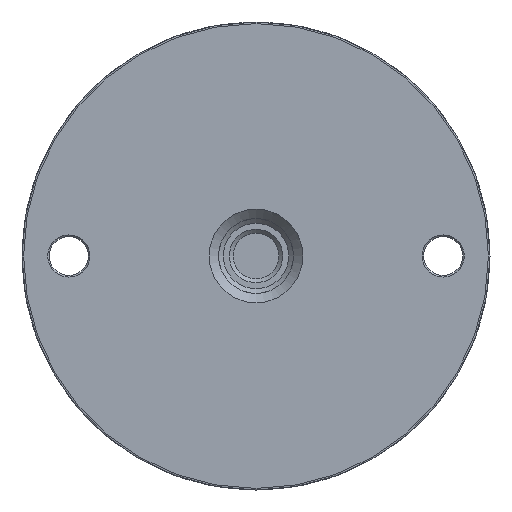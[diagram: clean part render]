
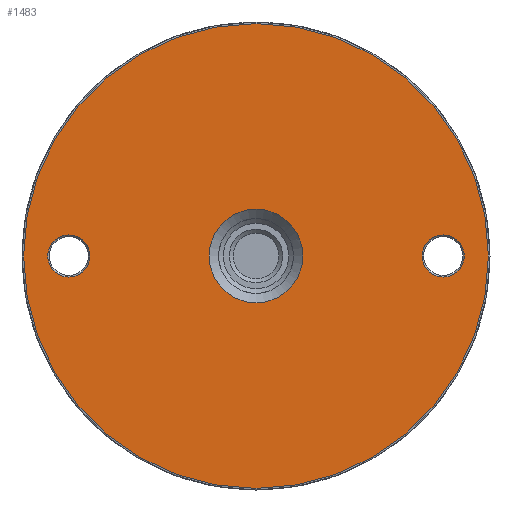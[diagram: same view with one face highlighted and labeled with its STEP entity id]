
A CAD part, left-side view. The second image highlights one B-rep face of the part: STEP entity #1483.
In plain terms, the highlighted planar face has unit normal (-1, 0, 0).
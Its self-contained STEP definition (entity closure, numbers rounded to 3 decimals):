
#216=CARTESIAN_POINT('',(-525.136,-503.109,0.0));
#217=VERTEX_POINT('',#216);
#218=CARTESIAN_POINT('',(-525.136,-473.109,0.0));
#219=VERTEX_POINT('',#218);
#220=CARTESIAN_POINT('',(-525.136,-488.109,0.0));
#221=DIRECTION('',(-1.0,0.0,0.0));
#222=DIRECTION('',(0.0,-1.0,0.0));
#223=AXIS2_PLACEMENT_3D('',#220,#221,#222);
#224=CIRCLE('',#223,15.0);
#225=EDGE_CURVE('',#217,#219,#224,.T.);
#227=CARTESIAN_POINT('',(-525.136,-488.109,0.0));
#228=DIRECTION('',(-1.0,0.0,0.0));
#229=DIRECTION('',(0.0,-1.0,0.0));
#230=AXIS2_PLACEMENT_3D('',#227,#228,#229);
#231=CIRCLE('',#230,15.0);
#232=EDGE_CURVE('',#219,#217,#231,.T.);
#373=CARTESIAN_POINT('',(-525.136,-434.859,0.));
#374=VERTEX_POINT('',#373);
#381=CARTESIAN_POINT('',(-525.136,-421.359,0.));
#382=VERTEX_POINT('',#381);
#383=CARTESIAN_POINT('',(-525.136,-428.109,0.));
#384=DIRECTION('',(-1.0,0.0,0.0));
#385=DIRECTION('',(0.0,-1.0,0.0));
#386=AXIS2_PLACEMENT_3D('',#383,#384,#385);
#387=CIRCLE('',#386,6.75);
#388=EDGE_CURVE('',#374,#382,#387,.T.);
#390=CARTESIAN_POINT('',(-525.136,-428.109,0.));
#391=DIRECTION('',(-1.0,0.0,0.0));
#392=DIRECTION('',(0.0,-1.0,0.0));
#393=AXIS2_PLACEMENT_3D('',#390,#391,#392);
#394=CIRCLE('',#393,6.75);
#395=EDGE_CURVE('',#382,#374,#394,.T.);
#512=CARTESIAN_POINT('',(-525.136,-554.859,0.));
#513=VERTEX_POINT('',#512);
#520=CARTESIAN_POINT('',(-525.136,-541.359,0.));
#521=VERTEX_POINT('',#520);
#522=CARTESIAN_POINT('',(-525.136,-548.109,0.));
#523=DIRECTION('',(-1.0,0.0,0.0));
#524=DIRECTION('',(0.0,-1.0,0.0));
#525=AXIS2_PLACEMENT_3D('',#522,#523,#524);
#526=CIRCLE('',#525,6.75);
#527=EDGE_CURVE('',#513,#521,#526,.T.);
#529=CARTESIAN_POINT('',(-525.136,-548.109,0.));
#530=DIRECTION('',(-1.0,0.0,0.0));
#531=DIRECTION('',(0.0,-1.0,0.0));
#532=AXIS2_PLACEMENT_3D('',#529,#530,#531);
#533=CIRCLE('',#532,6.75);
#534=EDGE_CURVE('',#521,#513,#533,.T.);
#605=CARTESIAN_POINT('',(-525.136,-488.109,-74.5));
#606=VERTEX_POINT('',#605);
#633=CARTESIAN_POINT('',(-525.136,-488.109,74.5));
#634=VERTEX_POINT('',#633);
#635=CARTESIAN_POINT('',(-525.136,-488.109,0.0));
#636=DIRECTION('',(-1.0,0.0,0.0));
#637=DIRECTION('',(0.0,0.0,-1.0));
#638=AXIS2_PLACEMENT_3D('',#635,#636,#637);
#639=CIRCLE('',#638,74.5);
#640=EDGE_CURVE('',#634,#606,#639,.T.);
#642=CARTESIAN_POINT('',(-525.136,-488.109,0.0));
#643=DIRECTION('',(-1.0,0.0,0.0));
#644=DIRECTION('',(0.0,0.0,-1.0));
#645=AXIS2_PLACEMENT_3D('',#642,#643,#644);
#646=CIRCLE('',#645,74.5);
#647=EDGE_CURVE('',#606,#634,#646,.T.);
#1462=CARTESIAN_POINT('',(-525.136,-413.608,-74.501));
#1463=DIRECTION('',(-1.0,0.0,0.0));
#1464=DIRECTION('',(0.0,-1.0,0.0));
#1465=AXIS2_PLACEMENT_3D('',#1462,#1463,#1464);
#1466=PLANE('',#1465);
#1467=ORIENTED_EDGE('',*,*,#647,.T.);
#1468=ORIENTED_EDGE('',*,*,#640,.T.);
#1469=EDGE_LOOP('',(#1467,#1468));
#1470=FACE_OUTER_BOUND('',#1469,.T.);
#1471=ORIENTED_EDGE('',*,*,#232,.F.);
#1472=ORIENTED_EDGE('',*,*,#225,.F.);
#1473=EDGE_LOOP('',(#1471,#1472));
#1474=FACE_BOUND('',#1473,.T.);
#1475=ORIENTED_EDGE('',*,*,#395,.F.);
#1476=ORIENTED_EDGE('',*,*,#388,.F.);
#1477=EDGE_LOOP('',(#1475,#1476));
#1478=FACE_BOUND('',#1477,.T.);
#1479=ORIENTED_EDGE('',*,*,#534,.F.);
#1480=ORIENTED_EDGE('',*,*,#527,.F.);
#1481=EDGE_LOOP('',(#1479,#1480));
#1482=FACE_BOUND('',#1481,.T.);
#1483=ADVANCED_FACE('',(#1470,#1474,#1478,#1482),#1466,.T.);
